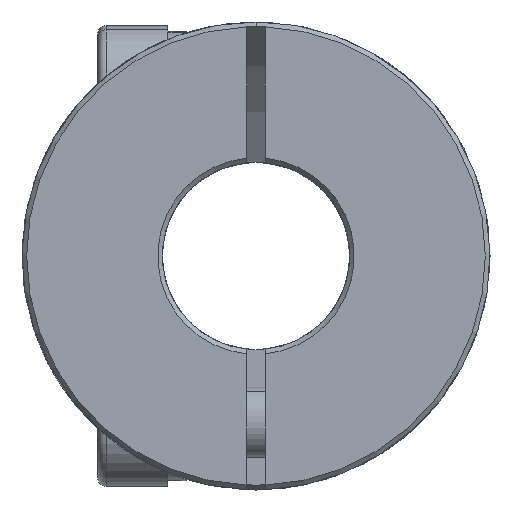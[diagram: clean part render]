
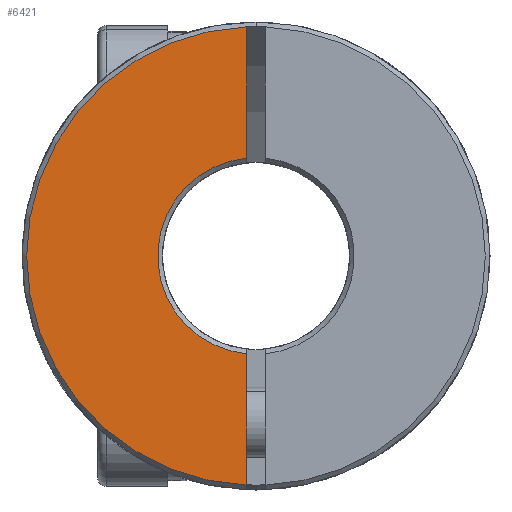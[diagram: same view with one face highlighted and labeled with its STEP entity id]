
A CAD part, front view. The second image highlights one B-rep face of the part: STEP entity #6421.
In plain terms, the highlighted planar face has unit normal (0, -1, 0).
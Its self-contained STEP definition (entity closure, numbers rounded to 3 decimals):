
#128 = CARTESIAN_POINT ( 'NONE',  ( 0., -17.5, 0. ) ) ;
#241 = CIRCLE ( 'NONE', #784, 9.8 ) ;
#296 = DIRECTION ( 'NONE',  ( 0., -1., 0. ) ) ;
#369 = ORIENTED_EDGE ( 'NONE', *, *, #5724, .F. ) ;
#523 = VECTOR ( 'NONE', #899, 1000. ) ;
#614 = DIRECTION ( 'NONE',  ( 0., 1., 0. ) ) ;
#670 = EDGE_CURVE ( 'NONE', #3929, #1995, #241, .T. ) ;
#769 = AXIS2_PLACEMENT_3D ( 'NONE', #128, #3500, #4115 ) ;
#784 = AXIS2_PLACEMENT_3D ( 'NONE', #3685, #296, #3161 ) ;
#899 = DIRECTION ( 'NONE',  ( 0., 0., -1. ) ) ;
#1014 = ORIENTED_EDGE ( 'NONE', *, *, #670, .T. ) ;
#1438 = CARTESIAN_POINT ( 'NONE',  ( -0.4, -17.5, 4.181 ) ) ;
#1878 = CARTESIAN_POINT ( 'NONE',  ( -0.4, -17.5, -4.181 ) ) ;
#1995 = VERTEX_POINT ( 'NONE', #4904 ) ;
#2232 = AXIS2_PLACEMENT_3D ( 'NONE', #3905, #614, #2347 ) ;
#2258 = PLANE ( 'NONE',  #2232 ) ;
#2347 = DIRECTION ( 'NONE',  ( 0., 0., 1. ) ) ;
#2392 = LINE ( 'NONE', #3656, #3027 ) ;
#2497 = EDGE_CURVE ( 'NONE', #5346, #4723, #2972, .T. ) ;
#2972 = CIRCLE ( 'NONE', #769, 4.2 ) ;
#3027 = VECTOR ( 'NONE', #4141, 1000. ) ;
#3150 = CARTESIAN_POINT ( 'NONE',  ( -0.4, -17.5, 9.792 ) ) ;
#3161 = DIRECTION ( 'NONE',  ( 0., 0., 1. ) ) ;
#3500 = DIRECTION ( 'NONE',  ( 0., 1., 0. ) ) ;
#3656 = CARTESIAN_POINT ( 'NONE',  ( -0.4, -17.5, 0. ) ) ;
#3685 = CARTESIAN_POINT ( 'NONE',  ( 0., -17.5, 0. ) ) ;
#3905 = CARTESIAN_POINT ( 'NONE',  ( 0., -17.5, 0. ) ) ;
#3929 = VERTEX_POINT ( 'NONE', #3150 ) ;
#4115 = DIRECTION ( 'NONE',  ( 0., 0., 1. ) ) ;
#4141 = DIRECTION ( 'NONE',  ( 0., 0., -1. ) ) ;
#4505 = LINE ( 'NONE', #6625, #523 ) ;
#4723 = VERTEX_POINT ( 'NONE', #1438 ) ;
#4844 = ORIENTED_EDGE ( 'NONE', *, *, #2497, .T. ) ;
#4904 = CARTESIAN_POINT ( 'NONE',  ( -0.4, -17.5, -9.792 ) ) ;
#4910 = ORIENTED_EDGE ( 'NONE', *, *, #6707, .F. ) ;
#5346 = VERTEX_POINT ( 'NONE', #1878 ) ;
#5724 = EDGE_CURVE ( 'NONE', #5346, #1995, #2392, .T. ) ;
#6277 = FACE_OUTER_BOUND ( 'NONE', #7157, .T. ) ;
#6421 = ADVANCED_FACE ( 'NONE', ( #6277 ), #2258, .F. ) ;
#6625 = CARTESIAN_POINT ( 'NONE',  ( -0.4, -17.5, 0. ) ) ;
#6707 = EDGE_CURVE ( 'NONE', #3929, #4723, #4505, .T. ) ;
#7157 = EDGE_LOOP ( 'NONE', ( #4910, #1014, #369, #4844 ) ) ;
